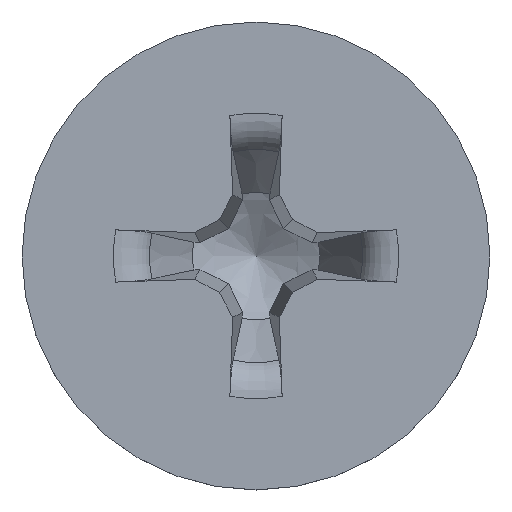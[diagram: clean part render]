
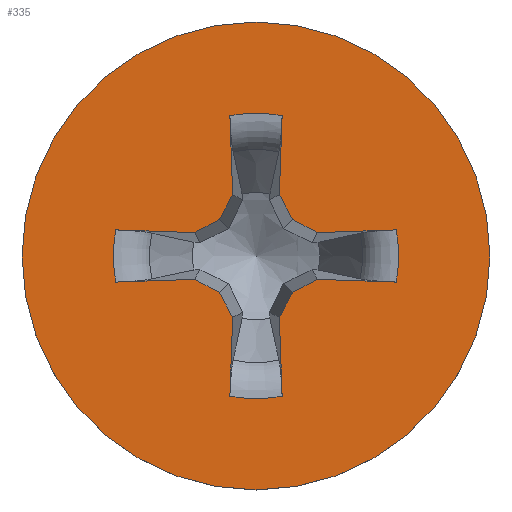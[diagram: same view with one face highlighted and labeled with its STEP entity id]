
A CAD part, top view. The second image highlights one B-rep face of the part: STEP entity #335.
In plain terms, the highlighted planar face has unit normal (0, 0, 1).
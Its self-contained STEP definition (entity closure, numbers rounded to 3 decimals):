
#104=LINE('',#3587,#196);
#105=LINE('',#3592,#197);
#106=LINE('',#3594,#198);
#107=LINE('',#3596,#199);
#108=LINE('',#3598,#200);
#109=LINE('',#3602,#201);
#110=LINE('',#3604,#202);
#111=LINE('',#3606,#203);
#112=LINE('',#3608,#204);
#113=LINE('',#3612,#205);
#114=LINE('',#3614,#206);
#115=LINE('',#3616,#207);
#116=LINE('',#3618,#208);
#117=LINE('',#3622,#209);
#118=LINE('',#3624,#210);
#119=LINE('',#3626,#211);
#196=VECTOR('',#1754,1.);
#197=VECTOR('',#1757,1.);
#198=VECTOR('',#1758,1.);
#199=VECTOR('',#1759,1.);
#200=VECTOR('',#1760,1.);
#201=VECTOR('',#1763,1.);
#202=VECTOR('',#1764,1.);
#203=VECTOR('',#1765,1.);
#204=VECTOR('',#1766,1.);
#205=VECTOR('',#1769,1.);
#206=VECTOR('',#1770,1.);
#207=VECTOR('',#1771,1.);
#208=VECTOR('',#1772,1.);
#209=VECTOR('',#1775,1.);
#210=VECTOR('',#1776,1.);
#211=VECTOR('',#1777,1.);
#289=PLANE('',#1689);
#316=FACE_BOUND('',#546,.T.);
#317=FACE_BOUND('',#547,.T.);
#335=ADVANCED_FACE('',(#316,#317),#289,.F.);
#546=EDGE_LOOP('',(#722,#723,#724,#725,#726,#727,#728,#729,#730,#731,#732,
#733,#734,#735,#736,#737,#738,#739,#740,#741));
#547=EDGE_LOOP('',(#742));
#654=CIRCLE('',#1684,4.271);
#655=CIRCLE('',#1685,4.271);
#656=CIRCLE('',#1686,4.271);
#657=CIRCLE('',#1687,4.271);
#658=CIRCLE('',#1688,7.);
#722=ORIENTED_EDGE('',*,*,#1348,.F.);
#723=ORIENTED_EDGE('',*,*,#1349,.T.);
#724=ORIENTED_EDGE('',*,*,#1350,.F.);
#725=ORIENTED_EDGE('',*,*,#1351,.F.);
#726=ORIENTED_EDGE('',*,*,#1352,.F.);
#727=ORIENTED_EDGE('',*,*,#1353,.F.);
#728=ORIENTED_EDGE('',*,*,#1354,.T.);
#729=ORIENTED_EDGE('',*,*,#1355,.F.);
#730=ORIENTED_EDGE('',*,*,#1356,.F.);
#731=ORIENTED_EDGE('',*,*,#1357,.F.);
#732=ORIENTED_EDGE('',*,*,#1358,.F.);
#733=ORIENTED_EDGE('',*,*,#1359,.T.);
#734=ORIENTED_EDGE('',*,*,#1360,.F.);
#735=ORIENTED_EDGE('',*,*,#1361,.F.);
#736=ORIENTED_EDGE('',*,*,#1362,.F.);
#737=ORIENTED_EDGE('',*,*,#1363,.F.);
#738=ORIENTED_EDGE('',*,*,#1364,.T.);
#739=ORIENTED_EDGE('',*,*,#1365,.F.);
#740=ORIENTED_EDGE('',*,*,#1366,.F.);
#741=ORIENTED_EDGE('',*,*,#1367,.F.);
#742=ORIENTED_EDGE('',*,*,#1368,.F.);
#1197=VERTEX_POINT('',#3588);
#1198=VERTEX_POINT('',#3589);
#1199=VERTEX_POINT('',#3591);
#1200=VERTEX_POINT('',#3593);
#1201=VERTEX_POINT('',#3595);
#1202=VERTEX_POINT('',#3597);
#1203=VERTEX_POINT('',#3599);
#1204=VERTEX_POINT('',#3601);
#1205=VERTEX_POINT('',#3603);
#1206=VERTEX_POINT('',#3605);
#1207=VERTEX_POINT('',#3607);
#1208=VERTEX_POINT('',#3609);
#1209=VERTEX_POINT('',#3611);
#1210=VERTEX_POINT('',#3613);
#1211=VERTEX_POINT('',#3615);
#1212=VERTEX_POINT('',#3617);
#1213=VERTEX_POINT('',#3619);
#1214=VERTEX_POINT('',#3621);
#1215=VERTEX_POINT('',#3623);
#1216=VERTEX_POINT('',#3625);
#1217=VERTEX_POINT('',#3628);
#1348=EDGE_CURVE('',#1197,#1198,#104,.T.);
#1349=EDGE_CURVE('',#1197,#1199,#654,.T.);
#1350=EDGE_CURVE('',#1200,#1199,#105,.T.);
#1351=EDGE_CURVE('',#1201,#1200,#106,.T.);
#1352=EDGE_CURVE('',#1202,#1201,#107,.T.);
#1353=EDGE_CURVE('',#1203,#1202,#108,.T.);
#1354=EDGE_CURVE('',#1203,#1204,#655,.T.);
#1355=EDGE_CURVE('',#1205,#1204,#109,.T.);
#1356=EDGE_CURVE('',#1206,#1205,#110,.T.);
#1357=EDGE_CURVE('',#1207,#1206,#111,.T.);
#1358=EDGE_CURVE('',#1208,#1207,#112,.T.);
#1359=EDGE_CURVE('',#1208,#1209,#656,.T.);
#1360=EDGE_CURVE('',#1210,#1209,#113,.T.);
#1361=EDGE_CURVE('',#1211,#1210,#114,.T.);
#1362=EDGE_CURVE('',#1212,#1211,#115,.T.);
#1363=EDGE_CURVE('',#1213,#1212,#116,.T.);
#1364=EDGE_CURVE('',#1213,#1214,#657,.T.);
#1365=EDGE_CURVE('',#1215,#1214,#117,.T.);
#1366=EDGE_CURVE('',#1216,#1215,#118,.T.);
#1367=EDGE_CURVE('',#1198,#1216,#119,.T.);
#1368=EDGE_CURVE('',#1217,#1217,#658,.T.);
#1684=AXIS2_PLACEMENT_3D('',#3590,#1755,#1756);
#1685=AXIS2_PLACEMENT_3D('',#3600,#1761,#1762);
#1686=AXIS2_PLACEMENT_3D('',#3610,#1767,#1768);
#1687=AXIS2_PLACEMENT_3D('',#3620,#1773,#1774);
#1688=AXIS2_PLACEMENT_3D('',#3627,#1778,#1779);
#1689=AXIS2_PLACEMENT_3D('',#3629,#1780,#1781);
#1754=DIRECTION('',(-0.999,-0.035,0.));
#1755=DIRECTION('',(0.,0.,-1.));
#1756=DIRECTION('',(-1.,0.,0.));
#1757=DIRECTION('',(0.999,-0.035,0.));
#1758=DIRECTION('',(0.883,0.469,0.));
#1759=DIRECTION('',(0.469,0.883,0.));
#1760=DIRECTION('',(-0.035,0.999,0.));
#1761=DIRECTION('',(0.,0.,-1.));
#1762=DIRECTION('',(-1.,0.,0.));
#1763=DIRECTION('',(-0.035,-0.999,0.));
#1764=DIRECTION('',(0.469,-0.883,0.));
#1765=DIRECTION('',(0.883,-0.469,0.));
#1766=DIRECTION('',(0.999,0.035,0.));
#1767=DIRECTION('',(0.,0.,-1.));
#1768=DIRECTION('',(-1.,0.,0.));
#1769=DIRECTION('',(-0.999,0.035,0.));
#1770=DIRECTION('',(-0.883,-0.469,0.));
#1771=DIRECTION('',(-0.469,-0.883,0.));
#1772=DIRECTION('',(0.035,-0.999,0.));
#1773=DIRECTION('',(0.,0.,-1.));
#1774=DIRECTION('',(-1.,0.,0.));
#1775=DIRECTION('',(0.035,0.999,0.));
#1776=DIRECTION('',(-0.469,0.883,0.));
#1777=DIRECTION('',(-0.883,0.469,0.));
#1778=DIRECTION('',(0.,0.,-1.));
#1779=DIRECTION('',(-1.,0.,0.));
#1780=DIRECTION('',(0.,0.,-1.));
#1781=DIRECTION('',(-1.,0.,0.));
#3587=CARTESIAN_POINT('',(-0.022,0.634,5.16));
#3588=CARTESIAN_POINT('',(4.199,0.781,5.16));
#3589=CARTESIAN_POINT('',(1.837,0.699,5.16));
#3590=CARTESIAN_POINT('',(0.,0.,5.16));
#3591=CARTESIAN_POINT('',(4.199,-0.781,5.16));
#3592=CARTESIAN_POINT('',(-0.022,-0.634,5.16));
#3593=CARTESIAN_POINT('',(1.837,-0.699,5.16));
#3594=CARTESIAN_POINT('',(0.695,-1.306,5.16));
#3595=CARTESIAN_POINT('',(1.094,-1.094,5.16));
#3596=CARTESIAN_POINT('',(1.306,-0.695,5.16));
#3597=CARTESIAN_POINT('',(0.699,-1.837,5.16));
#3598=CARTESIAN_POINT('',(0.634,0.022,5.16));
#3599=CARTESIAN_POINT('',(0.781,-4.199,5.16));
#3600=CARTESIAN_POINT('',(0.,0.,5.16));
#3601=CARTESIAN_POINT('',(-0.781,-4.199,5.16));
#3602=CARTESIAN_POINT('',(-0.634,0.022,5.16));
#3603=CARTESIAN_POINT('',(-0.699,-1.837,5.16));
#3604=CARTESIAN_POINT('',(-1.306,-0.695,5.16));
#3605=CARTESIAN_POINT('',(-1.094,-1.094,5.16));
#3606=CARTESIAN_POINT('',(-0.695,-1.306,5.16));
#3607=CARTESIAN_POINT('',(-1.837,-0.699,5.16));
#3608=CARTESIAN_POINT('',(0.022,-0.634,5.16));
#3609=CARTESIAN_POINT('',(-4.199,-0.781,5.16));
#3610=CARTESIAN_POINT('',(0.,0.,5.16));
#3611=CARTESIAN_POINT('',(-4.199,0.781,5.16));
#3612=CARTESIAN_POINT('',(0.022,0.634,5.16));
#3613=CARTESIAN_POINT('',(-1.837,0.699,5.16));
#3614=CARTESIAN_POINT('',(-0.695,1.306,5.16));
#3615=CARTESIAN_POINT('',(-1.094,1.094,5.16));
#3616=CARTESIAN_POINT('',(-1.306,0.695,5.16));
#3617=CARTESIAN_POINT('',(-0.699,1.837,5.16));
#3618=CARTESIAN_POINT('',(-0.634,-0.022,5.16));
#3619=CARTESIAN_POINT('',(-0.781,4.199,5.16));
#3620=CARTESIAN_POINT('',(0.,0.,5.16));
#3621=CARTESIAN_POINT('',(0.781,4.199,5.16));
#3622=CARTESIAN_POINT('',(0.634,-0.022,5.16));
#3623=CARTESIAN_POINT('',(0.699,1.837,5.16));
#3624=CARTESIAN_POINT('',(1.306,0.695,5.16));
#3625=CARTESIAN_POINT('',(1.094,1.094,5.16));
#3626=CARTESIAN_POINT('',(0.695,1.306,5.16));
#3627=CARTESIAN_POINT('',(0.,0.,5.16));
#3628=CARTESIAN_POINT('',(-7.,0.,5.16));
#3629=CARTESIAN_POINT('',(0.,0.,5.16));
